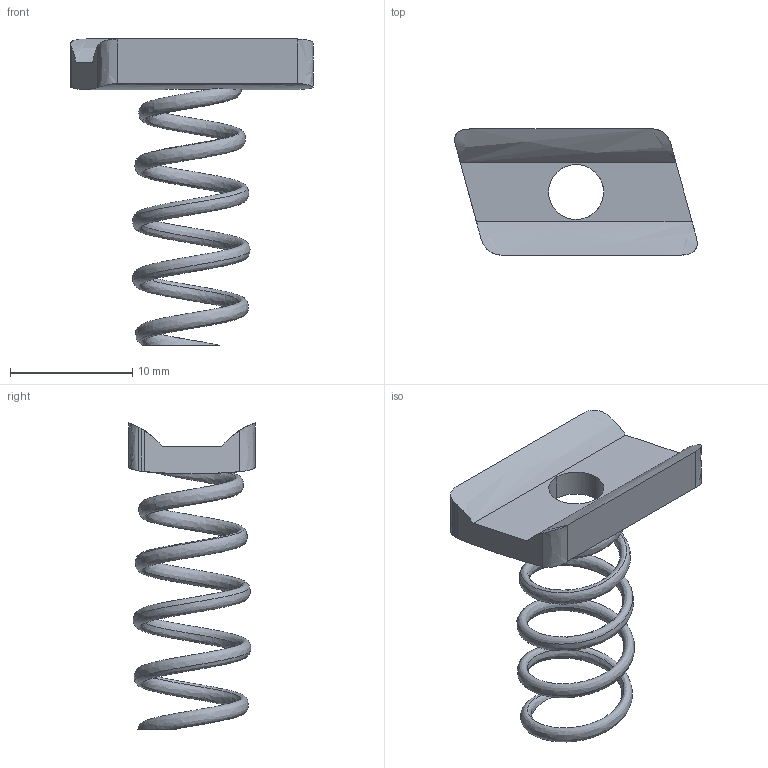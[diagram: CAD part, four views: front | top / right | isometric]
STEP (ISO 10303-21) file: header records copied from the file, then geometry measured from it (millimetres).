
FILE_DESCRIPTION(('TurboCAD Mac Pro'),'Build 980');
FILE_NAME('P6006-0836.stp',' ',(''),(''),'ACIS Interop','IMSI','TurboCAD Mac Pro BY IMSI, INCORPORATED');
FILE_SCHEMA(('automotive_design'));
Length unit declared in the file: inch
Products named in the file (1): 1
Bounding box: 19.82 x 10.31 x 25.01 mm (x, y, z)
Volume: 562.9 mm3; surface area: 984.6 mm2
Topology: 1 solids, 1 shells, 27 faces, 75 edges, 49 vertices
Faces by surface type: bspline 15, plane 12
Entity records: 3009 total; most frequent: CARTESIAN_POINT 2205, ORIENTED_EDGE 150, EDGE_CURVE 75, DIRECTION 57, VERTEX_POINT 49, B_SPLINE_CURVE_WITH_KNOTS 44, LINE 31, VECTOR 31
